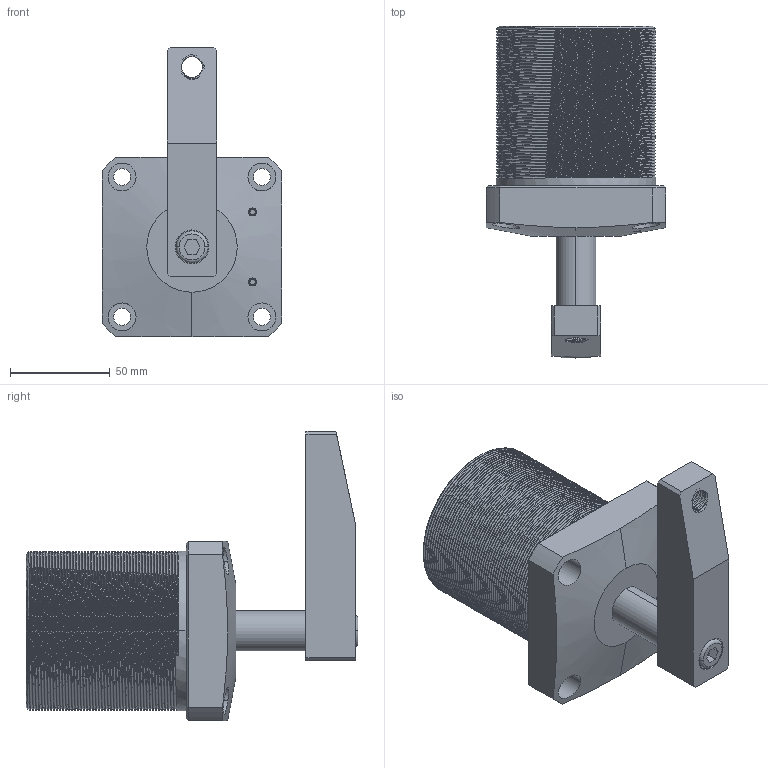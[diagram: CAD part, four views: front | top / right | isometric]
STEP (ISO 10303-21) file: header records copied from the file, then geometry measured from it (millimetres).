
FILE_DESCRIPTION((''),'2;1');
FILE_NAME('NPSU-63_ASM','2010-02-02T',('Administrator'),(''),'PRO/ENGINEER BY PARAMETRIC TECHNOLOGY CORPORATION, 2007170','PRO/ENGINEER BY PARAMETRIC TECHNOLOGY CORPORATION, 2007170','');
FILE_SCHEMA(('CONFIG_CONTROL_DESIGN'));
Length unit declared in the file: millimetre
Products named in the file (7): NPSU-63BT; NPSU-63HSG; NPSU-63YB; NPSU-63HG; M10X20; M4; NPSU-63_ASM
Assembly tree (7 placements, depth 2):
  NPSU-63_ASM
    NPSU-63BT
    NPSU-63HSG
    NPSU-63YB
    NPSU-63HG
    M10X20
    M4  x2
Bounding box: 90 x 166 x 145 mm (x, y, z)
Volume: 522122.6 mm3; surface area: 131606.1 mm2
Topology: 7 solids, 7 shells, 612 faces, 1613 edges, 1033 vertices
Faces by surface type: cylinder 318, bspline 97, plane 93, cone 68, torus 36
Entity records: 50179 total; most frequent: CARTESIAN_POINT 37212, ORIENTED_EDGE 3040, DIRECTION 2051, EDGE_CURVE 1520, VERTEX_POINT 977, AXIS2_PLACEMENT_3D 764, B_SPLINE_CURVE_WITH_KNOTS 736, EDGE_LOOP 631
